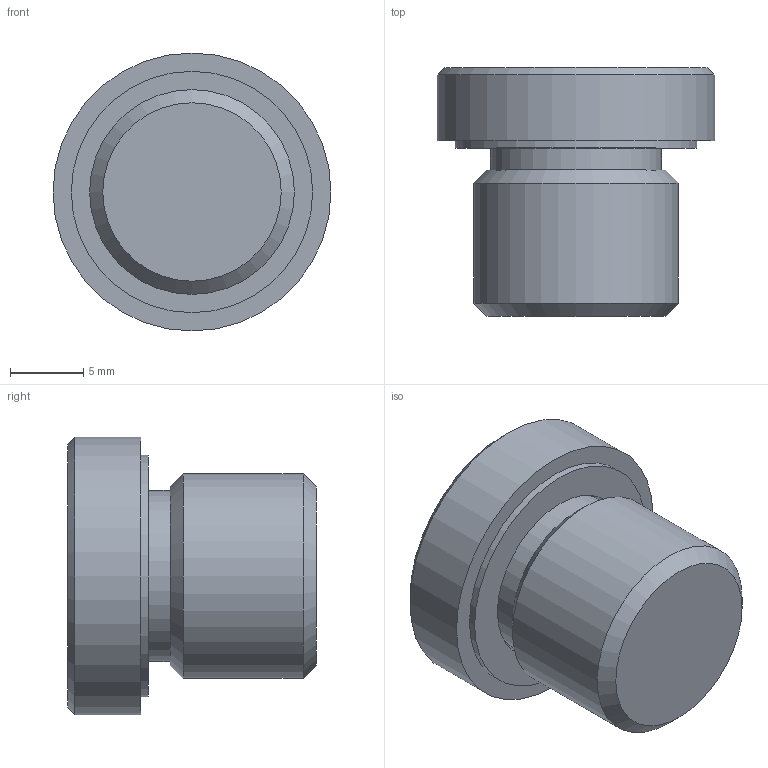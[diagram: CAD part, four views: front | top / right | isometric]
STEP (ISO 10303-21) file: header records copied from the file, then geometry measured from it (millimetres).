
FILE_DESCRIPTION( ( 'STEP AP203' ), '1' );
FILE_NAME( 'C:/Temp/Ganter_Step_05_03_2020/data/3_5/gn749/gn749_b/Threaded plug GN 749-M14x1,5-B.stp', '2020-03-12T13:41:38', ( 'License CC BY-ND 4.0' ), ( 'CADENAS' ), ' ', 'PARTsolutions', ' ' );
FILE_SCHEMA( ( 'CONFIG_CONTROL_DESIGN' ) );
Length unit declared in the file: millimetre
Products named in the file (1): _Threaded plug GN 749-M14x1,5-B
Bounding box: 19 x 17 x 19 mm (x, y, z)
Volume: 3030.4 mm3; surface area: 1550.1 mm2
Topology: 1 solids, 1 shells, 21 faces, 41 edges, 27 vertices
Faces by surface type: plane 13, cylinder 5, cone 3
Full cylindrical faces by diameter (mm): 11.7 x1, 12.1 x1, 14 x1, 16.5 x1, 19 x1
Entity records: 526 total; most frequent: DIRECTION 88, CARTESIAN_POINT 78, ORIENTED_EDGE 62, AXIS2_PLACEMENT_3D 35, EDGE_LOOP 34, EDGE_CURVE 31, FACE_OUTER_BOUND 26, VERTEX_POINT 25
